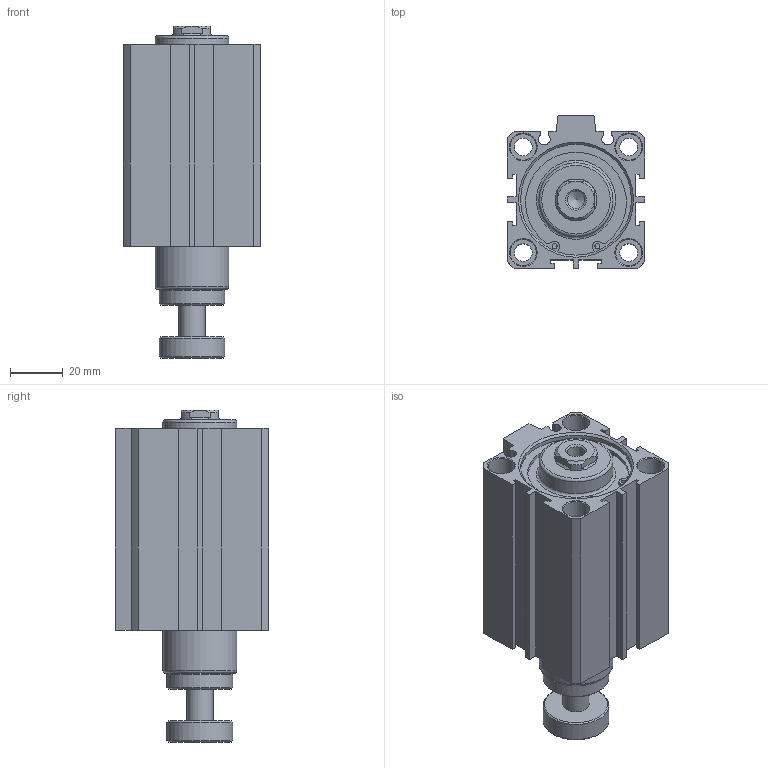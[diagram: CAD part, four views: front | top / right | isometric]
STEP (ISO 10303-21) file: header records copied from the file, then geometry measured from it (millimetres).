
FILE_DESCRIPTION((''),'2;1');
FILE_NAME('I:\3D電子目錄\氣缸\JDAR\JDAR\JDAR40\JDAR40x50.stp','2007-03-14T10:36:02',('662F206'),(''),'Autodesk Inventor 11','Autodesk Inventor 11','');
FILE_SCHEMA(('AUTOMOTIVE_DESIGN { 1 0 10303 214 1 1 1 1 }'));
Length unit declared in the file: millimetre
Products named in the file (3): JDAR40; R 形環 42
Assembly tree (3 placements, depth 2):
  JDAR40
    JDAR40
    R 形環 42  x2
Bounding box: 52 x 58 x 125.8 mm (x, y, z)
Volume: 197184.2 mm3; surface area: 43939.6 mm2
Topology: 3 solids, 3 shells, 172 faces, 405 edges, 263 vertices
Faces by surface type: plane 92, cylinder 51, cone 23, bspline 4, torus 2
Full cylindrical faces by diameter (mm): 1.9 x4, 2.2 x2, 6.8 x4, 10 x9, 25 x2, 28 x2, 42 x4, 44.5 x2
Entity records: 4475 total; most frequent: CARTESIAN_POINT 858, DIRECTION 758, ORIENTED_EDGE 634, EDGE_CURVE 317, AXIS2_PLACEMENT_3D 287, EDGE_LOOP 248, VERTEX_POINT 237, VECTOR 184
